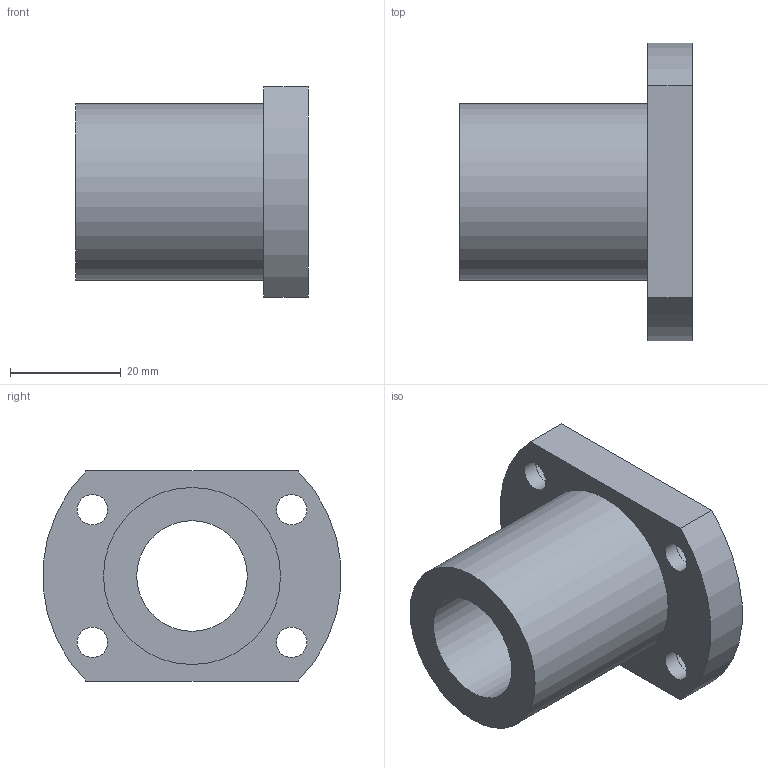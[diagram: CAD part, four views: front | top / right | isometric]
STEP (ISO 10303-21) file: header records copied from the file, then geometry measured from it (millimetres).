
FILE_DESCRIPTION(/* description */ ('Unknown'),/* implementation_level */ '2;1');
FILE_NAME(/* name */ 'LMH20UU',/* time_stamp */ '2025-02-03T14:09:58+08:00',/* author */ ('Unknown'),/* organization */ ('Unknown'),/* preprocessor_version */ 'ST-DEVELOPER v18.102',/* originating_system */ 'Solid Edge',/* authorisation */ 'Unknown');
FILE_SCHEMA (('AUTOMOTIVE_DESIGN {1 0 10303 214 3 1 1}'));
Length unit declared in the file: millimetre
Products named in the file (1): LMH20UU
Bounding box: 42 x 53.8 x 38 mm (x, y, z)
Volume: 27513 mm3; surface area: 11038.3 mm2
Topology: 1 solids, 1 shells, 21 faces, 42 edges, 28 vertices
Faces by surface type: cylinder 12, plane 9
Full cylindrical faces by diameter (mm): 5.5 x4, 9 x4, 20 x1, 32 x1
Entity records: 560 total; most frequent: DIRECTION 100, CARTESIAN_POINT 82, ORIENTED_EDGE 64, EDGE_LOOP 46, FACE_BOUND 46, AXIS2_PLACEMENT_3D 46, EDGE_CURVE 32, VERTEX_POINT 28
